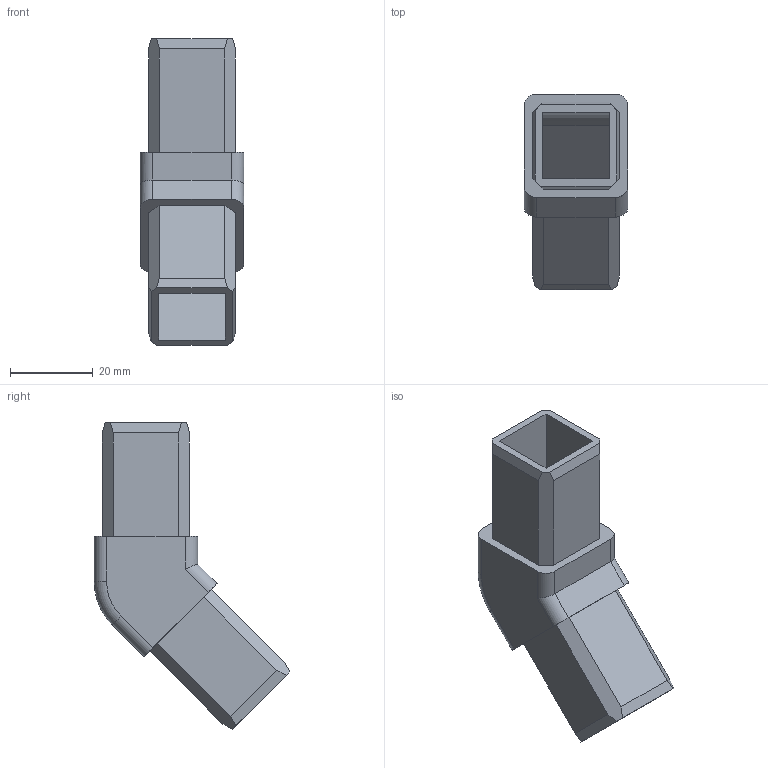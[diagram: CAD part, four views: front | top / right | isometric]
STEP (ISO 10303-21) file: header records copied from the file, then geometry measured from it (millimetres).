
FILE_DESCRIPTION (( 'STEP AP214' ), '1' );
FILE_NAME ('L15808.step', '2024-12-03T16:18:57', ( '' ), ( '' ), 'SwSTEP 2.0', 'SolidWorks 2023', '' );
FILE_SCHEMA (( 'AUTOMOTIVE_DESIGN' ));
Length unit declared in the file: millimetre
Products named in the file (1): L15808
Bounding box: 25 x 47.25 x 74.07 mm (x, y, z)
Volume: 17782.4 mm3; surface area: 12164.4 mm2
Topology: 1 solids, 1 shells, 52 faces, 138 edges, 90 vertices
Faces by surface type: plane 40, cylinder 10, torus 2
Entity records: 1619 total; most frequent: CARTESIAN_POINT 287, ORIENTED_EDGE 276, DIRECTION 260, EDGE_CURVE 138, LINE 118, VECTOR 118, VERTEX_POINT 90, AXIS2_PLACEMENT_3D 71
